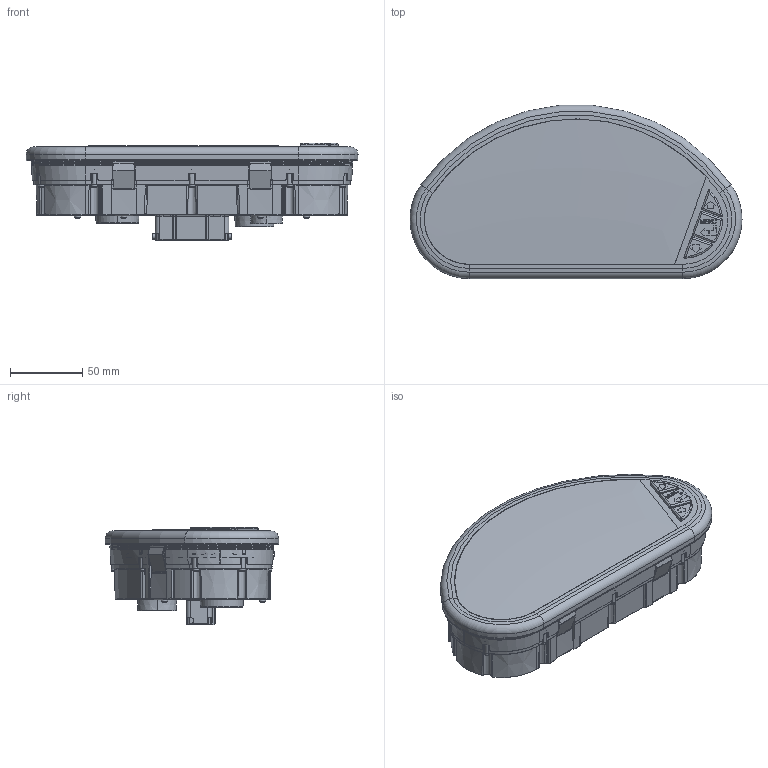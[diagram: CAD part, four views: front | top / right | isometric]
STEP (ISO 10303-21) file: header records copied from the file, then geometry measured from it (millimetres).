
FILE_DESCRIPTION((''),'2;1');
FILE_NAME('JCLUSTER-PER-CLIENTI_ASM','2019-06-24T',('Lorenzo Iotti'),(''),'PRO/ENGINEER BY PARAMETRIC TECHNOLOGY CORPORATION, 2013410','PRO/ENGINEER BY PARAMETRIC TECHNOLOGY CORPORATION, 2013410','');
FILE_SCHEMA(('CONFIG_CONTROL_DESIGN'));
Length unit declared in the file: millimetre
Products named in the file (11): DIS_4279; I35705; DIS_4293; DIS_3987-2-01; DIS_3987-2-02; DIS_3987-2_ASM; DIS_3977; DIS_3981-3; F32706; F32707; JCLUSTER-PER-CLIENTI_ASM
Assembly tree (25 placements, depth 3):
  JCLUSTER-PER-CLIENTI_ASM
    DIS_4279
    I35705
    DIS_4293
    DIS_3987-2_ASM
      DIS_3987-2-01
      DIS_3987-2-02
    DIS_3977  x4
    DIS_3981-3
    F32706  x4
    F32707  x10
Bounding box: 229 x 119.57 x 67.35 mm (x, y, z)
Volume: 949522.5 mm3; surface area: 224553.3 mm2
Topology: 24 solids, 24 shells, 2692 faces, 6631 edges, 4055 vertices
Faces by surface type: plane 925, cylinder 663, bspline 565, cone 287, torus 234, sphere 11, extrusion 7
Entity records: 115502 total; most frequent: CARTESIAN_POINT 65796, ORIENTED_EDGE 11116, DIRECTION 9307, EDGE_CURVE 5558, AXIS2_PLACEMENT_3D 3605, VERTEX_POINT 3437, EDGE_LOOP 2309, FACE_OUTER_BOUND 2221
